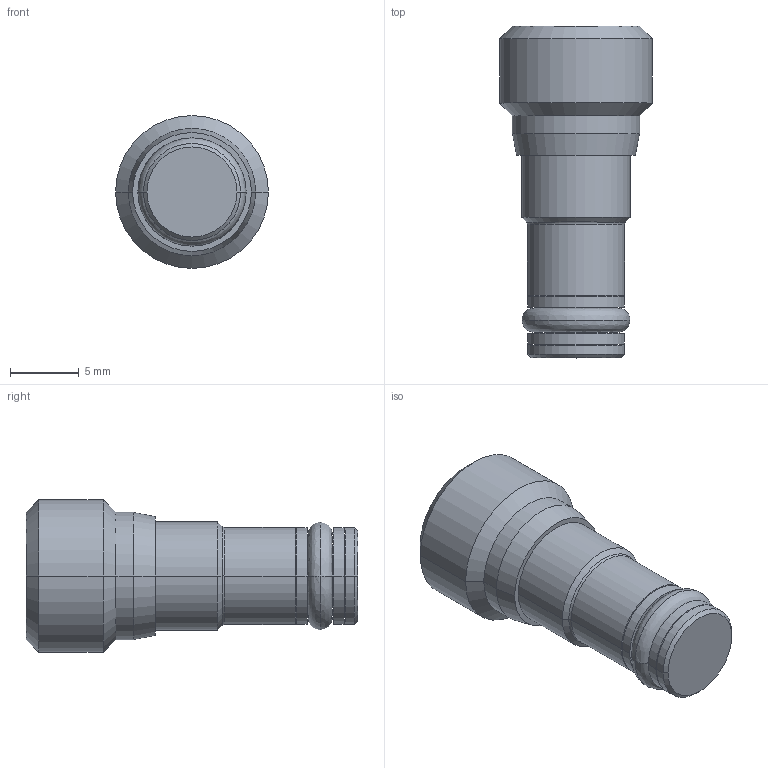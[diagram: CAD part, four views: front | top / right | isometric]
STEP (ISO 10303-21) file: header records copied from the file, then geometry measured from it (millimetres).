
FILE_DESCRIPTION((''),'2;1');
FILE_NAME('5251450_SW0001','2009-02-02T',('jcs'),(''),'PRO/ENGINEER BY PARAMETRIC TECHNOLOGY CORPORATION, 2008010','PRO/ENGINEER BY PARAMETRIC TECHNOLOGY CORPORATION, 2008010','');
FILE_SCHEMA(('CONFIG_CONTROL_DESIGN'));
Length unit declared in the file: inch
Products named in the file (1): 5251450_SW0001
Bounding box: 11.11 x 24.13 x 11.11 mm (x, y, z)
Volume: 1341.2 mm3; surface area: 1107.5 mm2
Topology: 2 solids, 2 shells, 68 faces, 140 edges, 80 vertices
Faces by surface type: cylinder 20, cone 16, plane 14, torus 10, revolution 8
Entity records: 2030 total; most frequent: CARTESIAN_POINT 528, DIRECTION 328, ORIENTED_EDGE 280, EDGE_CURVE 140, AXIS2_PLACEMENT_3D 136, VERTEX_POINT 80, CIRCLE 76, EDGE_LOOP 74
